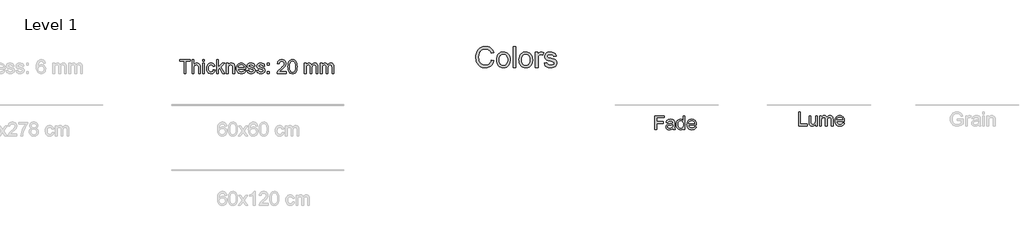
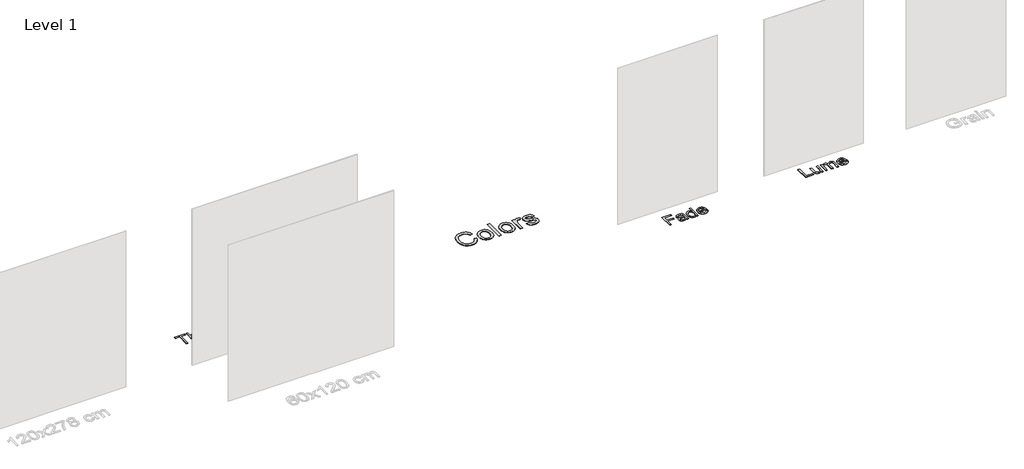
# One storey, part 6 of 7: 4 proxies.
"""IFC4 building model written with IfcOpenShell, lengths in millimetres."""

from ifc_helpers import new_model, si_unit, origin, origin_with_axes, place, context, project, spatial, polyline, outline, extrude, element, save

model = new_model("IFC4")

# Units and contexts
model_context = context("Model", 3, world=origin())
ifc_project = project(units=[si_unit("LENGTHUNIT", "METRE", prefix="MILLI")], contexts=[model_context])

# Site, building, storey
site = spatial("IfcSite", under=ifc_project)
building = spatial("IfcBuilding", under=site)
storey = spatial("IfcBuildingStorey", under=building, Name="Level 1", Elevation=0.0)

# Proxies
placement = place(None, origin())
element("IfcBuildingElementProxy", 1, Name="400mm Arial", ObjectType="400mm Arial", at=placement, inside=storey, context=model_context, shape_type="SweptSolid", body=[
    extrude(outline(polyline([(11602.0370354, 9989.6258822), (11602.0370354, 10391.4511228), (11872.0133689, 10391.4511228), (11872.0133689, 10341.2229677), (11652.2651905, 10341.2229677), (11652.2651905, 10221.9310994), (11840.620772, 10221.9310994), (11840.620772, 10171.7029443), (11652.2651905, 10171.7029443), (11652.2651905, 9989.6258822), (11602.0370354, 9989.6258822)])), origin_with_axes(), (0.0, 0.0, 1.0), 5.0),
    extrude(outline(polyline([(12123.1541443, 10027.2969985), (12099.1559755, 10006.7201322), (12074.4465681, 9993.2556512), (12048.4618365, 9985.8244349), (12020.637695, 9983.3473628), (11998.2735353, 9984.8372849), (11978.6623593, 9989.3070511), (11961.8041669, 9996.7566615), (11947.6989581, 10007.1861161), (11936.5613307, 10019.9332272), (11928.6058825, 10034.3358074), (11923.8326136, 10050.3938564), (11922.241524, 10068.1073745), (11924.6450197, 10088.9294954), (11931.8555068, 10107.83863), (11942.9778058, 10124.0254378), (11957.1167371, 10136.6805784), (11973.7327406, 10146.2455103), (11992.2862559, 10153.1616918), (12035.7453822, 10160.7155354), (12087.1017088, 10168.6617865), (12122.8598387, 10177.9814637), (12123.1541443, 10189.1650764), (12119.6960535, 10211.5813526), (12109.3217813, 10226.2475815), (12086.1206901, 10237.1368886), (12053.7961255, 10240.7666576), (12023.8750565, 10238.3508991), (12002.9793592, 10231.1036238), (11988.7300633, 10217.7004565), (11978.7481985, 10196.8170219), (11928.5200434, 10203.0955413), (11937.2388467, 10230.5640636), (11950.2496066, 10252.146474), (11968.7663337, 10268.6521128), (11994.0030385, 10280.8903205), (12024.8683379, 10288.4686896), (12060.2708486, 10290.9948127), (12094.2263567, 10288.7629952), (12121.1430561, 10282.0675429), (12141.4378795, 10271.999839), (12155.5277599, 10259.6512667), (12164.8719625, 10244.3841639), (12170.9297527, 10225.5608684), (12173.3822994, 10181.6112328), (12173.3822994, 10119.1203445), (12175.9329479, 10031.8587352), (12185.9393381, 9989.6258822), (12135.7111831, 9989.6258822), (12127.6668301, 10007.0880142), (12123.1541443, 10027.2969985)]), holes=[polyline([(12123.1541443, 10127.7533087), (12089.4071026, 10119.3901246), (12042.1220035, 10112.3513158), (11998.9081318, 10104.208861), (11987.6632055, 10098.6415801), (11979.3368096, 10090.9651091), (11974.1864617, 10081.7680593), (11972.4696791, 10071.6390417), (11976.2098127, 10056.7030327), (11987.4302135, 10044.464825), (12005.885627, 10036.2978447), (12031.3307983, 10033.5755179), (12058.3088113, 10036.5798875), (12082.1475646, 10045.5929964), (12101.473632, 10058.8735364), (12114.9135876, 10074.6801995), (12120.8732759, 10090.9651091), (12122.8598387, 10113.5285382), (12123.1541443, 10127.7533087)])]), origin_with_axes(), (0.0, 0.0, 1.0), 5.0),
    extrude(outline(polyline([(12424.5230747, 9989.6258822), (12424.5230747, 10037.0090832), (12409.4950952, 10013.5320805), (12391.2910678, 9996.7627929), (12369.9109926, 9986.7012203), (12345.3548694, 9983.3473628), (12312.8831519, 9988.2034052), (12283.1582867, 10002.7715322), (12257.9951583, 10026.033937), (12239.208651, 10056.9728128), (12227.5100036, 10094.3373608), (12223.6104544, 10136.8767821), (12227.2034353, 10178.888906), (12237.9823777, 10216.8298024), (12255.9350191, 10248.5412304), (12281.0490966, 10271.8649489), (12311.4238867, 10286.2123467), (12345.1586656, 10290.9948127), (12369.7331829, 10287.5735101), (12391.4627461, 10277.3096024), (12409.8813713, 10261.5765158), (12424.5230747, 10241.7476762), (12424.5230747, 10391.4511228), (12474.7512298, 10391.4511228), (12474.7512298, 9989.6258822), (12424.5230747, 9989.6258822)]), holes=[polyline([(12273.8386095, 10137.0729859), (12275.2549552, 10112.7161321), (12279.5039922, 10091.6395595), (12286.5857207, 10073.8432679), (12296.5001404, 10059.3272576), (12321.197285, 10040.0134528), (12335.0725676, 10035.1850016), (12349.9656571, 10033.5755179), (12364.9292572, 10035.1114252), (12378.7217663, 10039.7191472), (12402.7935116, 10058.1500352), (12412.3001955, 10072.0590403), (12419.0906839, 10089.2115383), (12424.5230747, 10133.2470131), (12418.9925821, 10181.3905036), (12412.0794663, 10199.9256247), (12402.4011041, 10214.7696633), (12390.699391, 10226.1433483), (12377.7162222, 10234.267409), (12363.4515979, 10239.1418454), (12347.9055179, 10240.7666576), (12332.7181228, 10239.2062248), (12318.8428403, 10234.5249264), (12306.2796701, 10226.7227624), (12295.0286124, 10215.7997328), (12285.7579862, 10201.5167144), (12279.1361102, 10183.6345837), (12273.8386095, 10137.0729859)])]), origin_with_axes(), (0.0, 0.0, 1.0), 5.0),
    extrude(outline(polyline([(12756.6959909, 10077.5251536), (12805.9431273, 10071.2466342), (12798.3923494, 10051.5220279), (12788.1989524, 10034.1396036), (12775.3629365, 10019.0993614), (12759.8843015, 10006.4013012), (12741.9224631, 9996.3152031), (12721.6368368, 9989.1108474), (12674.0942203, 9983.3473628), (12642.9284839, 9985.833632), (12615.1595246, 9993.2924394), (12590.7873425, 10005.7237852), (12569.8119374, 10023.1276692), (12552.9445479, 10045.0197136), (12540.8964125, 10070.9155404), (12533.6675313, 10100.8151496), (12531.2579043, 10134.7185411), (12533.6920568, 10169.7715639), (12540.9945144, 10200.6675201), (12553.1652771, 10227.4064098), (12570.2043448, 10249.9882329), (12591.1245676, 10267.9286116), (12614.9387954, 10280.7431677), (12641.6470283, 10288.4319014), (12671.2492662, 10290.9948127), (12699.8980765, 10288.4380328), (12725.8061661, 10280.7676932), (12748.9735347, 10267.9837939), (12769.4001825, 10250.0863348), (12786.0744339, 10227.5535626), (12797.9846135, 10200.8637238), (12805.1307213, 10170.0168185), (12807.5127572, 10135.0128467), (12807.2184516, 10121.4747893), (12581.4860594, 10121.4747893), (12584.3953928, 10101.4313519), (12590.1803372, 10083.8772494), (12598.8408925, 10068.8124817), (12610.3770587, 10056.2370488), (12624.1511737, 10046.322629), (12639.5255755, 10039.2409006), (12675.0752389, 10033.5755179), (12701.8079972, 10036.1997428), (12724.3223753, 10044.0724175), (12742.6183732, 10057.6840513), (12756.6959909, 10077.5251536)]), holes=[polyline([(12581.4860594, 10171.7029443), (12757.2846021, 10171.7029443), (12750.4910479, 10198.2394989), (12737.1737197, 10217.2222099), (12723.4762468, 10227.5229058), (12707.8903129, 10234.8805457), (12690.4159181, 10239.2951296), (12671.0530624, 10240.7666576), (12637.1956562, 10236.0700308), (12609.1998363, 10221.9801504), (12589.7388788, 10200.0175952), (12581.4860594, 10171.7029443)])]), origin_with_axes(), (0.0, 0.0, 1.0), 5.0),
])
element("IfcBuildingElementProxy", 2, Name="400mm Arial", ObjectType="400mm Arial", at=placement, inside=storey, context=model_context, shape_type="SweptSolid", body=[
    extrude(outline(polyline([(-2085.008477, 11625.1077423), (-2085.008477, 11976.7048278), (-2216.8573841, 11976.7048278), (-2216.8573841, 12026.9329829), (-1902.9314149, 12026.9329829), (-1902.9314149, 11976.7048278), (-2034.7803219, 11976.7048278), (-2034.7803219, 11625.1077423), (-2085.008477, 11625.1077423)])), origin_with_axes(), (0.0, 0.0, 1.0), 5.0),
    extrude(outline(polyline([(-1852.7032598, 11625.1077423), (-1852.7032598, 12026.9329829), (-1802.4751047, 12026.9329829), (-1802.4751047, 11879.1915736), (-1784.0258227, 11899.8788045), (-1763.307935, 11914.655398), (-1740.3214416, 11923.5213541), (-1715.0663427, 11926.4766728), (-1684.7283408, 11923.2515739), (-1658.6577701, 11913.5762775), (-1638.1299547, 11898.2110728), (-1624.420219, 11877.9162494), (-1616.6946971, 11850.0307942), (-1614.1195232, 11811.893694), (-1614.1195232, 11625.1077423), (-1664.3476783, 11625.1077423), (-1664.3476783, 11806.6942951), (-1668.3453293, 11838.135943), (-1680.3382823, 11859.6693024), (-1699.6643498, 11872.1037139), (-1725.6613441, 11876.2485177), (-1746.8881352, 11873.4526145), (-1766.8150766, 11865.064905), (-1783.3207155, 11851.8947296), (-1794.283599, 11834.7514286), (-1800.4272283, 11811.9672704), (-1802.4751047, 11781.8745232), (-1802.4751047, 11625.1077423), (-1852.7032598, 11625.1077423)])), origin_with_axes(), (0.0, 0.0, 1.0), 5.0),
    extrude(outline(polyline([(-1545.05581, 11625.1077423), (-1545.05581, 11920.1981534), (-1494.8276549, 11920.1981534), (-1494.8276549, 11625.1077423), (-1545.05581, 11625.1077423)])), origin_with_axes(), (0.0, 0.0, 1.0), 5.0),
    extrude(outline(polyline([(-1545.05581, 11976.7048278), (-1545.05581, 12026.9329829), (-1494.8276549, 12026.9329829), (-1494.8276549, 11976.7048278), (-1545.05581, 11976.7048278)])), origin_with_axes(), (0.0, 0.0, 1.0), 5.0),
    extrude(outline(polyline([(-1231.1298407, 11731.8425718), (-1180.9016857, 11725.5640525), (-1186.3647333, 11701.8632549), (-1194.9057269, 11680.8909155), (-1206.5246666, 11662.6470342), (-1221.2215523, 11647.1316111), (-1238.377116, 11634.7493163), (-1257.3720897, 11625.90482), (-1278.2064734, 11620.5981222), (-1300.880267, 11618.8292229), (-1329.0508308, 11621.297098), (-1354.3089955, 11628.7007231), (-1376.654761, 11641.0400984), (-1396.0881274, 11658.3152237), (-1411.8181484, 11680.2011368), (-1423.0538776, 11706.372875), (-1429.7953152, 11736.8304386), (-1432.042461, 11771.5738273), (-1428.2042256, 11816.2714897), (-1416.6895191, 11855.0094638), (-1397.3144007, 11886.2916961), (-1369.8949293, 11908.6221333), (-1337.0921181, 11922.0130379), (-1301.5669801, 11926.4766728), (-1279.2825282, 11924.9438311), (-1259.1256606, 11920.3453062), (-1241.0963771, 11912.6810979), (-1225.1946779, 11901.9512064), (-1211.690343, 11888.4008863), (-1200.8531525, 11872.2753921), (-1192.6831066, 11853.574724), (-1187.180205, 11832.298882), (-1237.4083601, 11826.0203626), (-1246.5195709, 11847.9338668), (-1260.7075531, 11863.642428), (-1279.187492, 11873.0969953), (-1301.1745726, 11876.2485177), (-1318.2412315, 11874.6972819), (-1333.6340273, 11870.0435747), (-1347.3529601, 11862.287396), (-1359.3980297, 11851.4287457), (-1369.2051506, 11837.216238), (-1376.2102369, 11819.3984867), (-1380.4132887, 11797.9754918), (-1381.814306, 11772.9472534), (-1376.3328642, 11725.8706208), (-1369.4810621, 11707.9333078), (-1359.888539, 11693.7299971), (-1348.0825927, 11682.9357263), (-1334.5905205, 11675.2255328), (-1319.4123225, 11670.5994167), (-1302.5479987, 11669.057378), (-1276.5387417, 11672.9078762), (-1255.2138487, 11684.4593709), (-1239.7014912, 11704.0061675), (-1231.1298407, 11731.8425718)])), origin_with_axes(), (0.0, 0.0, 1.0), 5.0),
    extrude(outline(polyline([(-1136.95205, 11625.1077423), (-1136.95205, 12026.9329829), (-1086.7238949, 12026.9329829), (-1086.7238949, 11811.0107772), (-974.1029534, 11920.1981534), (-904.6468328, 11920.1981534), (-1018.7393022, 11809.6373511), (-898.3683134, 11625.1077423), (-957.0332289, 11625.1077423), (-1054.7426868, 11774.713087), (-1086.7238949, 11743.6147957), (-1086.7238949, 11625.1077423), (-1136.95205, 11625.1077423)])), origin_with_axes(), (0.0, 0.0, 1.0), 5.0),
    extrude(outline(polyline([(-854.4186777, 11625.1077423), (-854.4186777, 11920.1981534), (-804.1905226, 11920.1981534), (-804.1905226, 11878.9953699), (-786.7406533, 11899.7684399), (-765.7836423, 11914.606347), (-741.3194896, 11923.5090913), (-713.3481953, 11926.4766728), (-688.589737, 11924.0854398), (-665.9159433, 11916.9117409), (-647.0068088, 11905.8507556), (-633.5423278, 11891.7976633), (-624.4065916, 11874.7892524), (-618.4836914, 11854.862311), (-615.8349411, 11806.3018877), (-615.8349411, 11625.1077423), (-666.0630961, 11625.1077423), (-666.0630961, 11799.532859), (-667.5100987, 11825.5053278), (-671.8511062, 11843.973004), (-679.858671, 11857.2044931), (-692.3053451, 11867.4684007), (-708.259161, 11874.0534884), (-726.7881508, 11876.2485177), (-756.2064477, 11871.3188989), (-781.283737, 11856.5300427), (-791.3054557, 11844.4573819), (-798.4638262, 11827.9578744), (-802.7588485, 11807.0315203), (-804.1905226, 11781.6783195), (-804.1905226, 11625.1077423), (-854.4186777, 11625.1077423)])), origin_with_axes(), (0.0, 0.0, 1.0), 5.0),
    extrude(outline(polyline([(-340.1686994, 11713.0070137), (-290.9215629, 11706.7284943), (-298.4723409, 11687.003888), (-308.6657378, 11669.6214637), (-321.5017538, 11654.5812215), (-336.9803887, 11641.8831613), (-354.9422271, 11631.7970633), (-375.2278535, 11624.5927075), (-422.77047, 11618.8292229), (-453.9362064, 11621.3154921), (-481.7051656, 11628.7742995), (-506.0773478, 11641.2056453), (-527.0527529, 11658.6095293), (-543.9201424, 11680.5015737), (-555.9682777, 11706.3974005), (-563.1971589, 11736.2970097), (-565.606786, 11770.2004012), (-563.1726335, 11805.253424), (-555.8701759, 11836.1493802), (-543.6994132, 11862.8882699), (-526.6603454, 11885.470093), (-505.7401226, 11903.4104717), (-481.9258948, 11916.2250278), (-455.217662, 11923.9137615), (-425.6154241, 11926.4766728), (-396.9666137, 11923.9198929), (-371.0585242, 11916.2495533), (-347.8911556, 11903.465654), (-327.4645078, 11885.5681949), (-310.7902564, 11863.0354227), (-298.8800768, 11836.3455839), (-291.733969, 11805.4986786), (-289.3519331, 11770.4947068), (-289.6462387, 11756.9566494), (-515.3786309, 11756.9566494), (-512.4692975, 11736.913212), (-506.6843531, 11719.3591095), (-498.0237978, 11704.2943418), (-486.4876316, 11691.7189089), (-472.7135165, 11681.8044891), (-457.3391148, 11674.7227607), (-421.7894513, 11669.057378), (-395.056693, 11671.6816029), (-372.5423149, 11679.5542776), (-354.246317, 11693.1659114), (-340.1686994, 11713.0070137)]), holes=[polyline([(-515.3786309, 11807.1848045), (-339.5800882, 11807.1848045), (-346.3736423, 11833.721359), (-359.6909706, 11852.70407), (-373.3884435, 11863.0047659), (-388.9743774, 11870.3624058), (-406.4487721, 11874.7769897), (-425.8116278, 11876.2485177), (-459.6690341, 11871.5518909), (-487.664854, 11857.4620105), (-507.1258115, 11835.4994553), (-515.3786309, 11807.1848045)])]), origin_with_axes(), (0.0, 0.0, 1.0), 5.0),
    extrude(outline(polyline([(-257.9593362, 11713.0070137), (-207.7311811, 11719.2855331), (-199.8094555, 11697.8012246), (-184.481039, 11682.0068242), (-161.6478298, 11672.2947396), (-131.2117261, 11669.057378), (-101.1435044, 11672.0249594), (-80.0025524, 11680.9277037), (-67.4945645, 11693.828099), (-63.3252352, 11708.7886335), (-67.51909, 11721.5909269), (-80.1006542, 11731.3520625), (-131.8003373, 11745.6749349), (-207.4368755, 11770.2494521), (-226.579002, 11782.5980244), (-240.4481532, 11798.9442478), (-248.8726509, 11818.2457898), (-251.6808168, 11839.4603182), (-249.4244739, 11858.9212757), (-242.6554452, 11876.8861798), (-231.9868673, 11892.6437919), (-218.031877, 11905.4828736), (-186.0997198, 11920.3453062), (-165.2162852, 11924.9438311), (-142.8858481, 11926.4766728), (-110.1934014, 11924.0118634), (-81.7683859, 11916.6174353), (-58.9106513, 11905.0168897), (-42.9200472, 11889.9337279), (-32.3250458, 11870.2520412), (-25.6541189, 11844.8559208), (-75.882274, 11838.5774014), (-82.2221071, 11854.3840644), (-94.7668831, 11866.2911783), (-113.6392295, 11873.7591828), (-138.9617735, 11876.2485177), (-167.8037219, 11873.8695474), (-187.0316875, 11866.7326367), (-197.8474182, 11856.4319409), (-201.4526617, 11844.5616152), (-195.4684479, 11829.9444372), (-176.7309916, 11818.8589264), (-133.468069, 11808.1658231), (-59.7445172, 11784.5232735), (-40.2712969, 11773.2170336), (-25.5069661, 11757.7414643), (-16.1995517, 11738.0475148), (-13.0970802, 11714.0861342), (-16.7391119, 11689.3154132), (-27.6652072, 11666.0162202), (-45.458433, 11646.0157024), (-69.7018565, 11631.141007), (-98.9852633, 11621.9071689), (-131.8984391, 11618.8292229), (-158.9316344, 11620.3130136), (-182.5435272, 11624.7643858), (-202.7341173, 11632.1833393), (-219.5034049, 11642.5698743), (-233.2008779, 11655.8749398), (-244.1760241, 11672.0494849), (-252.4288435, 11691.0935095), (-257.9593362, 11713.0070137)])), origin_with_axes(), (0.0, 0.0, 1.0), 5.0),
    extrude(outline(polyline([(24.5740361, 11713.0070137), (74.8021912, 11719.2855331), (82.7239168, 11697.8012246), (98.0523333, 11682.0068242), (120.8855425, 11672.2947396), (151.3216462, 11669.057378), (181.3898679, 11672.0249594), (202.5308199, 11680.9277037), (215.0388078, 11693.828099), (219.208137, 11708.7886335), (215.0142823, 11721.5909269), (202.4327181, 11731.3520625), (150.733035, 11745.6749349), (75.0964968, 11770.2494521), (55.9543703, 11782.5980244), (42.0852191, 11798.9442478), (33.6607214, 11818.2457898), (30.8525555, 11839.4603182), (33.1088984, 11858.9212757), (39.8779271, 11876.8861798), (50.546505, 11892.6437919), (64.5014953, 11905.4828736), (96.4336525, 11920.3453062), (117.3170871, 11924.9438311), (139.6475242, 11926.4766728), (172.3399709, 11924.0118634), (200.7649864, 11916.6174353), (223.622721, 11905.0168897), (239.613325, 11889.9337279), (250.2083265, 11870.2520412), (256.8792534, 11844.8559208), (206.6510983, 11838.5774014), (200.3112652, 11854.3840644), (187.7664892, 11866.2911783), (168.8941428, 11873.7591828), (143.5715988, 11876.2485177), (114.7296504, 11873.8695474), (95.5016848, 11866.7326367), (84.6859541, 11856.4319409), (81.0807106, 11844.5616152), (87.0649244, 11829.9444372), (105.8023807, 11818.8589264), (149.0653033, 11808.1658231), (222.7888551, 11784.5232735), (242.2620754, 11773.2170336), (257.0264062, 11757.7414643), (266.3338206, 11738.0475148), (269.4362921, 11714.0861342), (265.7942604, 11689.3154132), (254.8681651, 11666.0162202), (237.0749393, 11646.0157024), (212.8315158, 11631.141007), (183.548109, 11621.9071689), (150.6349331, 11618.8292229), (123.6017379, 11620.3130136), (99.9898451, 11624.7643858), (79.799255, 11632.1833393), (63.0299674, 11642.5698743), (49.3324944, 11655.8749398), (38.3573482, 11672.0494849), (30.1045288, 11691.0935095), (24.5740361, 11713.0070137)])), origin_with_axes(), (0.0, 0.0, 1.0), 5.0),
    extrude(outline(polyline([(338.5000054, 11869.9699983), (338.5000054, 11920.1981534), (388.7281604, 11920.1981534), (388.7281604, 11869.9699983), (338.5000054, 11869.9699983)])), origin_with_axes(), (0.0, 0.0, 1.0), 5.0),
    extrude(outline(polyline([(338.5000054, 11625.1077423), (338.5000054, 11675.3358974), (388.7281604, 11675.3358974), (388.7281604, 11625.1077423), (338.5000054, 11625.1077423)])), origin_with_axes(), (0.0, 0.0, 1.0), 5.0),
    extrude(outline(polyline([(884.7311918, 11675.3358974), (884.7311918, 11625.1077423), (621.0333776, 11625.1077423), (622.1370236, 11642.7906035), (626.4289802, 11659.7377008), (638.8266035, 11686.8015529), (656.9877113, 11713.0560646), (683.242223, 11740.5368497), (719.920058, 11771.2795217), (774.1090758, 11819.4230122), (806.593056, 11854.9604129), (822.816652, 11883.8023613), (828.2245173, 11911.8594948), (823.1109576, 11937.0103605), (807.7702784, 11957.9183206), (784.1890425, 11972.008201), (754.3538127, 11976.7048278), (723.0225294, 11972.1185656), (698.6810041, 11958.359779), (682.9724429, 11936.5075885), (677.5400521, 11907.6411146), (627.311897, 11913.919634), (631.6314448, 11939.8491833), (639.4887911, 11962.5045828), (650.8839359, 11981.8858326), (665.8168792, 11997.9929326), (683.9442645, 12010.6542046), (704.9227353, 12019.6979703), (728.7522915, 12025.1242298), (755.4329332, 12026.9329829), (782.3526982, 12024.9218947), (806.3110132, 12018.8886299), (827.307878, 12008.8331887), (845.3432928, 11994.7555711), (859.8286464, 11977.6981092), (870.1753275, 11958.7031355), (876.3833362, 11937.77065), (878.4526724, 11914.9006526), (876.220855, 11890.8779584), (869.5254027, 11867.272197), (857.6428142, 11843.2617654), (839.8495884, 11818.0250606), (811.4858865, 11787.8955252), (767.8918701, 11749.206602), (710.1098714, 11700.8914333), (687.4483405, 11675.3358974), (884.7311918, 11675.3358974)])), origin_with_axes(), (0.0, 0.0, 1.0), 5.0),
    extrude(outline(polyline([(934.9593469, 11822.783001), (938.6504295, 11887.1010365), (949.7236776, 11938.3960494), (968.0687264, 11977.4528546), (979.9267894, 11992.6862348), (993.5752114, 12005.0562669), (1009.0599777, 12014.6273302), (1026.4270736, 12021.4638039), (1066.8082539, 12026.9329829), (1097.7593925, 12023.6956213), (1125.4731694, 12013.9835367), (1148.6497351, 11998.1768736), (1165.9892398, 11976.6557769), (1179.0858389, 11949.6041875), (1189.5336875, 11917.2060465), (1196.3762926, 11876.0645767), (1198.657161, 11822.783001), (1195.0028665, 11758.8328476), (1184.0399831, 11707.660462), (1165.8052988, 11668.5668687), (1153.974827, 11653.2875031), (1140.335602, 11640.8530917), (1124.8324416, 11631.2176491), (1107.4101635, 11624.3351901), (1066.8082539, 11618.8292229), (1039.1435279, 11621.2204559), (1014.6180616, 11628.3941548), (993.2318549, 11640.3503196), (974.9849079, 11657.0889504), (957.473725, 11687.3472445), (944.9657371, 11725.0490177), (937.4609444, 11770.1942698), (934.9593469, 11822.783001)]), holes=[polyline([(985.1875019, 11822.8811029), (986.6590299, 11779.2165758), (991.0736139, 11743.8723131), (998.4312538, 11716.8483149), (1008.7319496, 11698.1445811), (1021.1908865, 11685.4189297), (1035.0232496, 11676.3291788), (1050.2290387, 11670.8753282), (1066.8082539, 11669.057378), (1083.3874692, 11670.8814596), (1098.5932583, 11676.3537042), (1112.4256213, 11685.474112), (1124.8845582, 11698.2426829), (1135.1852541, 11716.9770736), (1142.542894, 11743.9949404), (1146.957478, 11779.2962835), (1148.4290059, 11822.8811029), (1147.0065289, 11865.3898675), (1142.7390977, 11900.1117964), (1135.6267125, 11927.0468898), (1125.6693732, 11946.1951477), (1113.4189027, 11959.5431328), (1099.4271242, 11969.0774078), (1083.6940375, 11974.7979728), (1066.2196427, 11976.7048278), (1049.7262666, 11975.0248334), (1034.7779949, 11969.9848501), (1021.3748275, 11961.5848778), (1009.5167646, 11949.8249167), (998.8727122, 11928.9782703), (991.2698176, 11900.8720859), (986.7080809, 11865.5063634), (985.1875019, 11822.8811029)])]), origin_with_axes(), (0.0, 0.0, 1.0), 5.0),
    extrude(outline(polyline([(1412.1268201, 11625.1077423), (1412.1268201, 11920.1981534), (1462.3549751, 11920.1981534), (1462.3549751, 11871.63773), (1477.4626624, 11893.9436416), (1496.8868318, 11911.4180364), (1519.9652956, 11922.7120137), (1546.0358663, 11926.4766728), (1573.9703725, 11922.6384373), (1596.3621233, 11911.1237308), (1613.0884913, 11892.6928429), (1624.0268493, 11868.1060629), (1642.3351099, 11893.6432047), (1663.2185445, 11911.8840203), (1686.6771531, 11922.8285096), (1712.7109356, 11926.4766728), (1732.8187523, 11924.9591595), (1750.467891, 11920.4066198), (1765.6583518, 11912.8190537), (1778.3901345, 11902.1964611), (1788.4547727, 11888.4162147), (1795.6438, 11871.3556871), (1799.9572164, 11851.0148785), (1801.3950219, 11827.3937887), (1801.3950219, 11625.1077423), (1751.1668668, 11625.1077423), (1751.1668668, 11805.8113783), (1750.0019072, 11830.8641422), (1746.5070282, 11847.7499258), (1739.9587287, 11859.3136832), (1729.6335074, 11868.4003684), (1716.3529674, 11874.2864804), (1700.9387118, 11876.2485177), (1673.7277068, 11871.2207971), (1651.5444225, 11856.1376353), (1642.9390495, 11844.5677465), (1636.7923545, 11829.9689627), (1631.8749985, 11791.6847097), (1631.8749985, 11625.1077423), (1581.6468435, 11625.1077423), (1581.6468435, 11811.4031847), (1578.7405757, 11839.8036747), (1570.0217724, 11860.0617099), (1554.6810932, 11872.2018157), (1531.9091977, 11876.2485177), (1512.5586048, 11873.5507164), (1494.7285907, 11865.4573125), (1480.0133109, 11852.1645097), (1470.0069206, 11833.8685118), (1464.2679615, 11808.4846542), (1462.3549751, 11773.9282721), (1462.3549751, 11625.1077423), (1412.1268201, 11625.1077423)])), origin_with_axes(), (0.0, 0.0, 1.0), 5.0),
    extrude(outline(polyline([(1876.7372545, 11625.1077423), (1876.7372545, 11920.1981534), (1926.9654096, 11920.1981534), (1926.9654096, 11871.63773), (1942.0730969, 11893.9436416), (1961.4972662, 11911.4180364), (1984.57573, 11922.7120137), (2010.6463008, 11926.4766728), (2038.5808069, 11922.6384373), (2060.9725577, 11911.1237308), (2077.6989257, 11892.6928429), (2088.6372837, 11868.1060629), (2106.9455444, 11893.6432047), (2127.828979, 11911.8840203), (2151.2875875, 11922.8285096), (2177.32137, 11926.4766728), (2197.4291868, 11924.9591595), (2215.0783255, 11920.4066198), (2230.2687862, 11912.8190537), (2243.0005689, 11902.1964611), (2253.0652072, 11888.4162147), (2260.2542345, 11871.3556871), (2264.5676509, 11851.0148785), (2266.0054563, 11827.3937887), (2266.0054563, 11625.1077423), (2215.7773013, 11625.1077423), (2215.7773013, 11805.8113783), (2214.6123416, 11830.8641422), (2211.1174627, 11847.7499258), (2204.5691632, 11859.3136832), (2194.2439418, 11868.4003684), (2180.9634018, 11874.2864804), (2165.5491462, 11876.2485177), (2138.3381413, 11871.2207971), (2116.154857, 11856.1376353), (2107.549484, 11844.5677465), (2101.402789, 11829.9689627), (2096.485433, 11791.6847097), (2096.485433, 11625.1077423), (2046.2572779, 11625.1077423), (2046.2572779, 11811.4031847), (2043.3510101, 11839.8036747), (2034.6322068, 11860.0617099), (2019.2915276, 11872.2018157), (1996.5196321, 11876.2485177), (1977.1690392, 11873.5507164), (1959.3390252, 11865.4573125), (1944.6237454, 11852.1645097), (1934.6173551, 11833.8685118), (1928.878396, 11808.4846542), (1926.9654096, 11773.9282721), (1926.9654096, 11625.1077423), (1876.7372545, 11625.1077423)])), origin_with_axes(), (0.0, 0.0, 1.0), 5.0),
])
element("IfcBuildingElementProxy", 3, Name="400mm Arial", ObjectType="400mm Arial", at=placement, inside=storey, context=model_context, shape_type="SweptSolid", body=[
    extrude(outline(polyline([(15779.5994936, 10095.6258822), (15779.5994936, 10497.4511228), (15829.8276487, 10497.4511228), (15829.8276487, 10145.8540373), (16030.740269, 10145.8540373), (16030.740269, 10095.6258822), (15779.5994936, 10095.6258822)])), origin_with_axes(), (0.0, 0.0, 1.0), 5.0),
    extrude(outline(polyline([(16269.3240056, 10095.6258822), (16269.3240056, 10146.3445466), (16251.1506351, 10121.4082787), (16229.9851576, 10103.5966588), (16205.8275732, 10092.9096868), (16178.677882, 10089.3473628), (16154.2137293, 10091.8489604), (16131.4418338, 10099.3537531), (16112.3364955, 10110.6354676), (16098.8720145, 10124.4678306), (16089.8098547, 10141.2677751), (16083.91148, 10161.4522339), (16080.9684241, 10208.1487218), (16080.9684241, 10390.7162933), (16131.1965792, 10390.7162933), (16131.1965792, 10231.7912714), (16134.237737, 10180.5820976), (16141.5585887, 10163.5001103), (16154.1033647, 10150.5138759), (16171.0381992, 10142.3101074), (16191.5292264, 10139.5755179), (16213.1974759, 10142.3714211), (16233.4677738, 10150.7591305), (16250.1818791, 10163.9660942), (16261.1815508, 10181.2197597), (16267.2883919, 10204.8500466), (16269.3240056, 10237.1868739), (16269.3240056, 10390.7162933), (16319.5521607, 10390.7162933), (16319.5521607, 10095.6258822), (16269.3240056, 10095.6258822)])), origin_with_axes(), (0.0, 0.0, 1.0), 5.0),
    extrude(outline(polyline([(16388.6158739, 10095.6258822), (16388.6158739, 10390.7162933), (16438.844029, 10390.7162933), (16438.844029, 10342.1558699), (16453.9517163, 10364.4617815), (16473.3758856, 10381.9361763), (16496.4543494, 10393.2301536), (16522.5249202, 10396.9948127), (16550.4594263, 10393.1565772), (16572.8511771, 10381.6418707), (16589.5775451, 10363.2109828), (16600.5159031, 10338.6242028), (16618.8241638, 10364.1613446), (16639.7075984, 10382.4021602), (16663.1662069, 10393.3466495), (16689.1999894, 10396.9948127), (16709.3078062, 10395.4772994), (16726.9569449, 10390.9247597), (16742.1474056, 10383.3371936), (16754.8791883, 10372.714601), (16764.9438266, 10358.9343546), (16772.1328539, 10341.873827), (16776.4462703, 10321.5330184), (16777.8840757, 10297.9119286), (16777.8840757, 10095.6258822), (16727.6559207, 10095.6258822), (16727.6559207, 10276.3295182), (16726.490961, 10301.3822821), (16722.9960821, 10318.2680657), (16716.4477826, 10329.8318231), (16706.1225612, 10338.9185083), (16692.8420212, 10344.8046203), (16677.4277656, 10346.7666576), (16650.2167607, 10341.738937), (16628.0334764, 10326.6557752), (16619.4281034, 10315.0858864), (16613.2814084, 10300.4871026), (16608.3640524, 10262.2028496), (16608.3640524, 10095.6258822), (16558.1358973, 10095.6258822), (16558.1358973, 10281.9213246), (16555.2296295, 10310.3218146), (16546.5108262, 10330.5798498), (16531.170147, 10342.7199556), (16508.3982515, 10346.7666576), (16489.0476586, 10344.0688563), (16471.2176446, 10335.9754524), (16456.5023648, 10322.6826496), (16446.4959745, 10304.3866517), (16440.7570154, 10279.0027941), (16438.844029, 10244.446412), (16438.844029, 10095.6258822), (16388.6158739, 10095.6258822)])), origin_with_axes(), (0.0, 0.0, 1.0), 5.0),
    extrude(outline(polyline([(17059.8288368, 10183.5251536), (17109.0759733, 10177.2466342), (17101.5251953, 10157.5220279), (17091.3317984, 10140.1396036), (17078.4957824, 10125.0993614), (17063.0171475, 10112.4013012), (17045.0553091, 10102.3152031), (17024.7696827, 10095.1108474), (16977.2270662, 10089.3473628), (16946.0613298, 10091.833632), (16918.2923706, 10099.2924394), (16893.9201884, 10111.7237852), (16872.9447833, 10129.1276692), (16856.0773938, 10151.0197136), (16844.0292585, 10176.9155404), (16836.8003773, 10206.8151496), (16834.3907502, 10240.7185411), (16836.8249027, 10275.7715639), (16844.1273603, 10306.6675201), (16856.298123, 10333.4064098), (16873.3371908, 10355.9882329), (16894.2574136, 10373.9286116), (16918.0716414, 10386.7431677), (16944.7798742, 10394.4319014), (16974.3821121, 10396.9948127), (17003.0309225, 10394.4380328), (17028.939012, 10386.7676932), (17052.1063806, 10373.9837939), (17072.5330284, 10356.0863348), (17089.2072798, 10333.5535626), (17101.1174594, 10306.8637238), (17108.2635672, 10276.0168185), (17110.6456031, 10241.0128467), (17110.3512975, 10227.4747893), (16884.6189053, 10227.4747893), (16887.5282387, 10207.4313519), (16893.3131831, 10189.8772494), (16901.9737384, 10174.8124817), (16913.5099046, 10162.2370488), (16927.2840197, 10152.322629), (16942.6584214, 10145.2409006), (16978.2080849, 10139.5755179), (17004.9408432, 10142.1997428), (17027.4552213, 10150.0724175), (17045.7512192, 10163.6840513), (17059.8288368, 10183.5251536)]), holes=[polyline([(16884.6189053, 10277.7029443), (17060.417448, 10277.7029443), (17053.6238939, 10304.2394989), (17040.3065656, 10323.2222099), (17026.6090927, 10333.5229058), (17011.0231588, 10340.8805457), (16993.5487641, 10345.2951296), (16974.1859084, 10346.7666576), (16940.3285021, 10342.0700308), (16912.3326822, 10327.9801504), (16892.8717247, 10306.0175952), (16884.6189053, 10277.7029443)])]), origin_with_axes(), (0.0, 0.0, 1.0), 5.0),
])
element("IfcBuildingElementProxy", 4, Name="600mm Arial", ObjectType="600mm Arial", at=placement, inside=storey, context=model_context, shape_type="SweptSolid", body=[
    extrude(outline(polyline([(6848.2445319, 12013.3203972), (6923.5867645, 11993.8962278), (6908.6783466, 11947.0418572), (6888.8219159, 11906.1011897), (6864.0174724, 11871.0742252), (6834.265016, 11841.9609638), (6800.2359315, 11819.0741052), (6762.6016034, 11802.726349), (6721.3620317, 11792.9176953), (6676.5172165, 11789.6481441), (6630.5733538, 11792.1221505), (6589.1268486, 11799.5441698), (6552.1777007, 11811.9142019), (6519.7259102, 11829.2322468), (6491.3254201, 11851.2407871), (6466.5301737, 11877.6823056), (6445.3401707, 11908.556802), (6427.7554114, 11943.8642765), (6413.946041, 11982.0780187), (6404.082205, 12021.6713185), (6398.1639034, 12062.6441757), (6396.1911362, 12104.9965904), (6398.4214208, 12150.4392138), (6405.1122746, 12192.883599), (6416.2636975, 12232.329746), (6431.8756897, 12268.7776546), (6451.5987632, 12301.6249183), (6475.08343, 12330.2691301), (6502.3296903, 12354.7102902), (6533.337544, 12374.9483984), (6567.0539288, 12390.817908), (6602.4257827, 12402.153272), (6639.4531055, 12408.9544904), (6678.1358973, 12411.2215632), (6721.2286745, 12408.2877042), (6760.7437993, 12399.4861275), (6796.6812717, 12384.816833), (6829.0410917, 12364.2798206), (6857.2898304, 12338.4177163), (6880.8940589, 12307.7731461), (6899.8537773, 12272.34611), (6914.1689854, 12232.1366079), (6838.8267528, 12214.1839665), (6826.9625584, 12243.8122627), (6812.7071311, 12269.1271425), (6796.0604708, 12290.1286059), (6777.0225776, 12306.8166529), (6755.4830868, 12319.5315744), (6731.3316338, 12328.6136611), (6704.5682186, 12334.0629132), (6675.1928413, 12335.8793305), (6641.393683, 12333.8651766), (6610.4823984, 12327.8227148), (6582.4589874, 12317.7519452), (6557.3234501, 12303.6528678), (6535.3930846, 12286.1600789), (6516.9851893, 12265.9081751), (6502.0997641, 12242.8971563), (6490.7368089, 12217.1270225), (6476.3342288, 12161.9815114), (6471.5333688, 12105.1437432), (6477.2171456, 12035.5404697), (6484.3218667, 12004.2705001), (6494.2684761, 11975.3549753), (6507.2179223, 11949.3687108), (6523.3311537, 11926.8865224), (6542.6081703, 11907.90841), (6565.048972, 11892.4343736), (6589.5637084, 11880.4276249), (6615.0625292, 11871.8513759), (6641.5454343, 11866.7056265), (6669.0124238, 11864.9903767), (6701.767717, 11867.3264274), (6731.9018509, 11874.3345794), (6759.4148256, 11886.0148327), (6784.3066411, 11902.3671874), (6805.9886862, 11923.3180671), (6823.8723497, 11948.7938952), (6837.9576316, 11978.7946719), (6848.2445319, 12013.3203972)])), origin_with_axes(), (0.0, 0.0, 1.0), 5.0),
    extrude(outline(polyline([(6998.9289971, 12020.3837315), (7003.0032902, 12077.7089434), (7015.2261695, 12127.1062983), (7035.597635, 12168.5757962), (7064.1176866, 12202.1174371), (7092.8308763, 12223.5557604), (7124.5239102, 12238.8688484), (7159.1967883, 12248.0567012), (7196.8495105, 12251.1193189), (7238.4155774, 12247.3899151), (7275.9993217, 12236.201704), (7309.6007435, 12217.5546853), (7339.2198426, 12191.4488592), (7363.3942882, 12158.7671425), (7380.6617494, 12120.3924519), (7391.0222261, 12076.3247874), (7394.4757183, 12026.564149), (7392.949008, 11986.2350853), (7388.3688772, 11950.4493642), (7380.7353258, 11919.2069858), (7370.0483538, 11892.50795), (7356.4413185, 11869.4463474), (7340.0475771, 11849.1162686), (7320.8671296, 11831.5177137), (7298.8999759, 11816.6506826), (7275.0014418, 11804.837072), (7250.0268529, 11796.3987787), (7223.9762091, 11791.3358028), (7196.8495105, 11789.6481441), (7154.6764383, 11793.3637523), (7116.743206, 11804.5105767), (7083.0498138, 11823.0886175), (7053.5962616, 11849.0978745), (7029.6793334, 11882.0968895), (7012.5958132, 11921.644204), (7002.3457011, 11967.739818), (6998.9289971, 12020.3837315)]), holes=[polyline([(7074.2712297, 12020.5308843), (7076.4509305, 11983.9864066), (7082.990033, 11952.3439565), (7093.8885371, 11925.6035339), (7109.1464428, 11903.765139), (7127.7060895, 11886.8011805), (7148.5098163, 11874.6840673), (7171.5576233, 11867.4137994), (7196.8495105, 11864.9903767), (7222.012639, 11867.4275949), (7244.9684755, 11874.7392496), (7265.71702, 11886.9253407), (7284.2582725, 11903.9858682), (7299.5161783, 11926.0403938), (7310.4146824, 11953.2084792), (7316.9537849, 11985.4901242), (7319.1334857, 12022.885329), (7316.9399893, 12058.2709785), (7310.3595001, 12089.0856941), (7299.3920181, 12115.3294759), (7284.0375433, 12137.002324), (7265.4273129, 12153.9662825), (7244.692564, 12166.0833957), (7221.8332965, 12173.3536636), (7196.8495105, 12175.7770862), (7171.5576233, 12173.3628606), (7148.5098163, 12166.1201839), (7127.7060895, 12154.0490559), (7109.1464428, 12137.1494767), (7093.8885371, 12115.3754612), (7082.990033, 12088.6810239), (7076.4509305, 12057.0661649), (7074.2712297, 12020.5308843)])]), origin_with_axes(), (0.0, 0.0, 1.0), 5.0),
    extrude(outline(polyline([(7479.23573, 11799.0659232), (7479.23573, 12401.8037841), (7554.5779626, 12401.8037841), (7554.5779626, 11799.0659232), (7479.23573, 11799.0659232)])), origin_with_axes(), (0.0, 0.0, 1.0), 5.0),
    extrude(outline(polyline([(7648.7557534, 12020.3837315), (7652.8300465, 12077.7089434), (7665.0529257, 12127.1062983), (7685.4243912, 12168.5757962), (7713.9444429, 12202.1174371), (7742.6576326, 12223.5557604), (7774.3506665, 12238.8688484), (7809.0235446, 12248.0567012), (7846.6762668, 12251.1193189), (7888.2423337, 12247.3899151), (7925.826078, 12236.201704), (7959.4274998, 12217.5546853), (7989.0465989, 12191.4488592), (8013.2210445, 12158.7671425), (8030.4885057, 12120.3924519), (8040.8489823, 12076.3247874), (8044.3024746, 12026.564149), (8042.7757643, 11986.2350853), (8038.1956335, 11950.4493642), (8030.5620821, 11919.2069858), (8019.8751101, 11892.50795), (8006.2680748, 11869.4463474), (7989.8743334, 11849.1162686), (7970.6938859, 11831.5177137), (7948.7267322, 11816.6506826), (7924.8281981, 11804.837072), (7899.8536092, 11796.3987787), (7873.8029654, 11791.3358028), (7846.6762668, 11789.6481441), (7804.5031945, 11793.3637523), (7766.5699623, 11804.5105767), (7732.8765701, 11823.0886175), (7703.4230178, 11849.0978745), (7679.5060896, 11882.0968895), (7662.4225695, 11921.644204), (7652.1724574, 11967.739818), (7648.7557534, 12020.3837315)]), holes=[polyline([(7724.097986, 12020.5308843), (7726.2776868, 11983.9864066), (7732.8167893, 11952.3439565), (7743.7152934, 11925.6035339), (7758.9731991, 11903.765139), (7777.5328458, 11886.8011805), (7798.3365726, 11874.6840673), (7821.3843796, 11867.4137994), (7846.6762668, 11864.9903767), (7871.8393952, 11867.4275949), (7894.7952317, 11874.7392496), (7915.5437763, 11886.9253407), (7934.0850288, 11903.9858682), (7949.3429346, 11926.0403938), (7960.2414387, 11953.2084792), (7966.7805411, 11985.4901242), (7968.960242, 12022.885329), (7966.7667456, 12058.2709785), (7960.1862564, 12089.0856941), (7949.2187744, 12115.3294759), (7933.8642996, 12137.002324), (7915.2540692, 12153.9662825), (7894.5193202, 12166.0833957), (7871.6600528, 12173.3536636), (7846.6762668, 12175.7770862), (7821.3843796, 12173.3628606), (7798.3365726, 12166.1201839), (7777.5328458, 12154.0490559), (7758.9731991, 12137.1494767), (7743.7152934, 12115.3754612), (7732.8167893, 12088.6810239), (7726.2776868, 12057.0661649), (7724.097986, 12020.5308843)])]), origin_with_axes(), (0.0, 0.0, 1.0), 5.0),
    extrude(outline(polyline([(8129.0624863, 11799.0659232), (8129.0624863, 12241.7015398), (8194.9869398, 12241.7015398), (8194.9869398, 12176.2185446), (8219.3407279, 12214.1839665), (8241.7815296, 12236.5511918), (8264.2959077, 12247.4772871), (8288.870425, 12251.1193189), (8326.3943885, 12245.3067833), (8364.5069632, 12227.8691768), (8339.3438347, 12160.3260424), (8312.8563311, 12171.9143253), (8286.3688274, 12175.7770862), (8263.8728434, 12172.0614781), (8243.7680924, 12160.9146536), (8227.5261023, 12143.1827415), (8216.6184011, 12119.7118702), (8207.4581394, 12077.6261699), (8204.4047189, 12031.7144969), (8204.4047189, 11799.0659232), (8129.0624863, 11799.0659232)])), origin_with_axes(), (0.0, 0.0, 1.0), 5.0),
    extrude(outline(polyline([(8383.3425213, 11930.9148303), (8458.6847539, 11940.3326093), (8463.2372936, 11923.1525202), (8470.5673424, 11908.1061466), (8480.6749002, 11895.1934885), (8493.5599671, 11884.4145461), (8509.2593312, 11875.916472), (8527.8097808, 11869.8464191), (8573.4639364, 11864.9903767), (8618.566269, 11869.4417489), (8636.0958461, 11875.005964), (8650.277697, 11882.7958653), (8669.0396788, 11902.1464582), (8673.7301742, 11912.980583), (8675.2936727, 11924.5872599), (8673.7209772, 11934.7591971), (8669.0028906, 11943.7907001), (8650.1305442, 11958.4324035), (8621.9139952, 11967.9973354), (8572.5810196, 11979.916712), (8503.8238748, 11999.8007339), (8459.1262123, 12016.7784879), (8430.4130226, 12035.3013464), (8409.6092958, 12059.8206814), (8396.9725493, 12088.7729944), (8392.7603004, 12120.594787), (8396.1448148, 12149.7862233), (8406.2983578, 12176.7335794), (8422.3012246, 12200.3699976), (8443.2337101, 12219.6286201), (8464.037437, 12231.7503318), (8491.1319459, 12241.922269), (8522.4570978, 12248.8200564), (8555.9527535, 12251.1193189), (8604.9914234, 12247.4221048), (8647.6289467, 12236.3304626), (8681.9155486, 12218.9296443), (8705.9014547, 12196.3049016), (8721.7939569, 12166.7823715), (8731.8003472, 12128.6881909), (8656.4581145, 12119.2704118), (8646.948365, 12142.9804064), (8628.1312009, 12160.8410772), (8599.8226814, 12172.043084), (8561.8388654, 12175.7770862), (8518.5759428, 12172.2086309), (8489.7339943, 12161.5032648), (8473.5103983, 12146.052221), (8468.102533, 12128.2467325), (8470.3466132, 12116.6584496), (8477.0788537, 12106.3209656), (8488.5935602, 12097.0871275), (8505.1850381, 12089.6926994), (8570.0794221, 12073.6530444), (8680.6647498, 12038.18922), (8709.8745802, 12021.2298601), (8732.0210764, 11998.0165062), (8745.9821981, 11968.475582), (8750.6359053, 11932.533511), (8745.1728577, 11895.3774295), (8728.7837148, 11860.42864), (8702.0938761, 11830.4278633), (8665.7287408, 11808.1158203), (8621.8036306, 11794.2650631), (8572.4338669, 11789.6481441), (8531.8840739, 11791.8738302), (8496.4662348, 11798.5508884), (8466.1803496, 11809.6793187), (8441.0264182, 11825.2591212), (8420.4802087, 11845.2167195), (8404.0174895, 11869.4785371), (8391.6382603, 11898.044574), (8383.3425213, 11930.9148303)])), origin_with_axes(), (0.0, 0.0, 1.0), 5.0),
])

save(model, "model.ifc")
